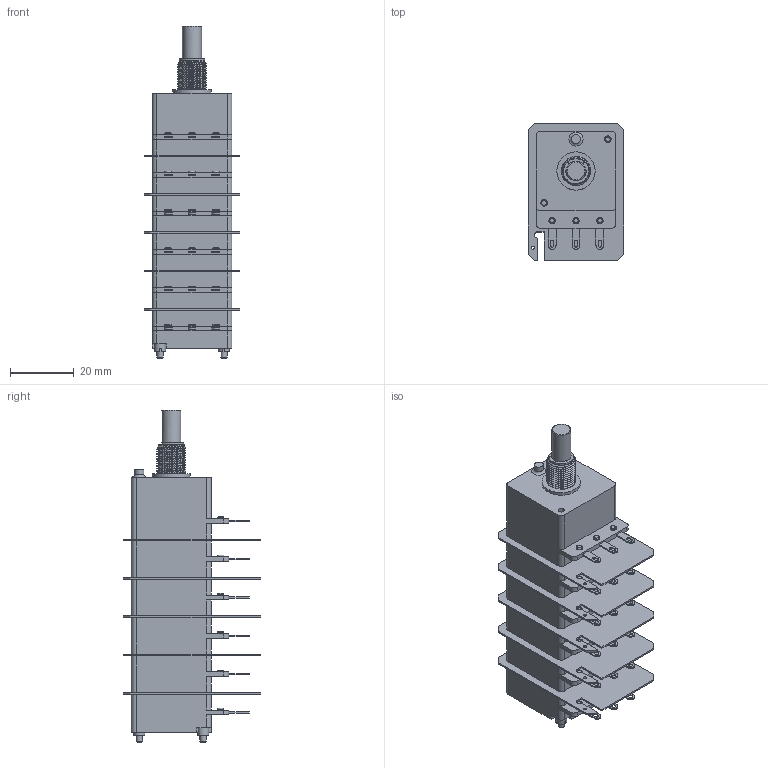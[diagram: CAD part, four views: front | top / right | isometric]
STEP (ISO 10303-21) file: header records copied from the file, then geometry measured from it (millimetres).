
FILE_DESCRIPTION(('FreeCAD Model'),'2;1');
FILE_NAME('Open CASCADE Shape Model','2026-07-15T10:59:06',(''),(''), 'Open CASCADE STEP processor 7.8','FreeCAD','Unknown');
FILE_SCHEMA(('AUTOMOTIVE_DESIGN { 1 0 10303 214 1 1 1 1 }'));
Length unit declared in the file: millimetre
Products named in the file (1): 6CP25XX-S-6R20
Bounding box: 30 x 43 x 104 mm (x, y, z)
Volume: 53050 mm3; surface area: 22164.4 mm2
Topology: 1 solids, 46 shells, 690 faces, 1572 edges, 1040 vertices
Faces by surface type: plane 400, cylinder 226, bspline 38, torus 20, cone 6
Full cylindrical faces by diameter (mm): 1 x5, 1.9 x2, 2 x46, 2.2 x32, 2.5 x4, 2.8 x1, 3.5 x2, 4.4 x1, 4.5 x6, 5.4 x1, 6 x1, 6.05 x1, 8 x1, 9 x5, 12 x1
Entity records: 25337 total; most frequent: CARTESIAN_POINT 7639, DIRECTION 3338, ORIENTED_EDGE 3142, EDGE_CURVE 1571, AXIS2_PLACEMENT_3D 1228, VERTEX_POINT 1040, LINE 882, VECTOR 882
